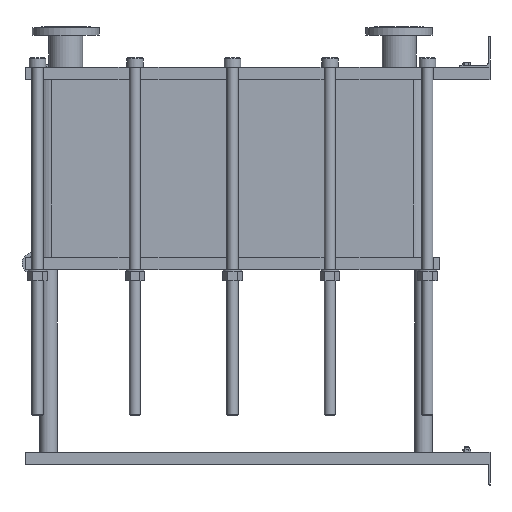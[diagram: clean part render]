
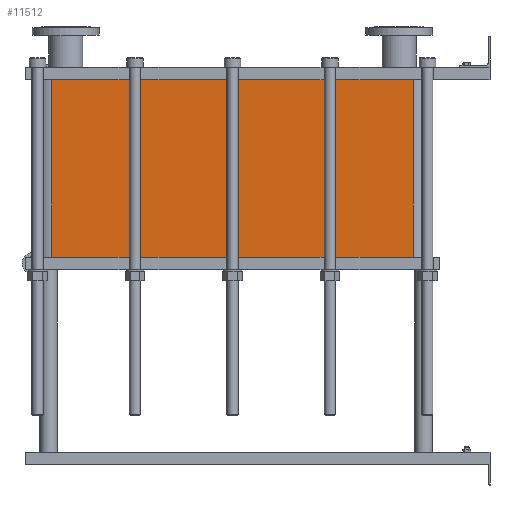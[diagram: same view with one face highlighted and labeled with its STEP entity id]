
A CAD part, left-side view. The second image highlights one B-rep face of the part: STEP entity #11512.
In plain terms, the highlighted planar face has unit normal (-1, 0, 0).
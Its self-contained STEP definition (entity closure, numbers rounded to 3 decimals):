
#1129=LINE('',#23232,#2102);
#1130=LINE('',#23236,#2103);
#1131=LINE('',#23238,#2104);
#1132=LINE('',#23239,#2105);
#2102=VECTOR('',#15887,10.);
#2103=VECTOR('',#15892,10.);
#2104=VECTOR('',#15893,10.);
#2105=VECTOR('',#15894,10.);
#3267=FACE_OUTER_BOUND('',#4093,.T.);
#4093=EDGE_LOOP('',(#10103,#10104,#10105,#10106));
#5642=VERTEX_POINT('',#23229);
#5643=VERTEX_POINT('',#23231);
#5644=VERTEX_POINT('',#23235);
#5645=VERTEX_POINT('',#23237);
#7159=EDGE_CURVE('',#5643,#5642,#1129,.T.);
#7161=EDGE_CURVE('',#5642,#5644,#1130,.T.);
#7162=EDGE_CURVE('',#5645,#5644,#1131,.T.);
#7163=EDGE_CURVE('',#5645,#5643,#1132,.T.);
#10103=ORIENTED_EDGE('',*,*,#7161,.T.);
#10104=ORIENTED_EDGE('',*,*,#7162,.F.);
#10105=ORIENTED_EDGE('',*,*,#7163,.T.);
#10106=ORIENTED_EDGE('',*,*,#7159,.T.);
#10857=PLANE('',#12751);
#11512=ADVANCED_FACE('',(#3267),#10857,.T.);
#12751=AXIS2_PLACEMENT_3D('',#23234,#15890,#15891);
#15887=DIRECTION('',(0.,0.,-1.));
#15890=DIRECTION('center_axis',(-1.,0.,0.));
#15891=DIRECTION('ref_axis',(0.,1.,0.));
#15892=DIRECTION('',(0.,-1.,0.));
#15893=DIRECTION('',(0.,0.,-1.));
#15894=DIRECTION('',(0.,1.,0.));
#23229=CARTESIAN_POINT('',(-200.,1414.,-572.7));
#23231=CARTESIAN_POINT('',(-200.,1414.,0.));
#23232=CARTESIAN_POINT('',(-200.,1414.,0.));
#23234=CARTESIAN_POINT('Origin',(-200.,248.,0.));
#23235=CARTESIAN_POINT('',(-200.,248.,-572.7));
#23236=CARTESIAN_POINT('',(-200.,539.5,-572.7));
#23237=CARTESIAN_POINT('',(-200.,248.,0.));
#23238=CARTESIAN_POINT('',(-200.,248.,0.));
#23239=CARTESIAN_POINT('',(-200.,248.,0.));
